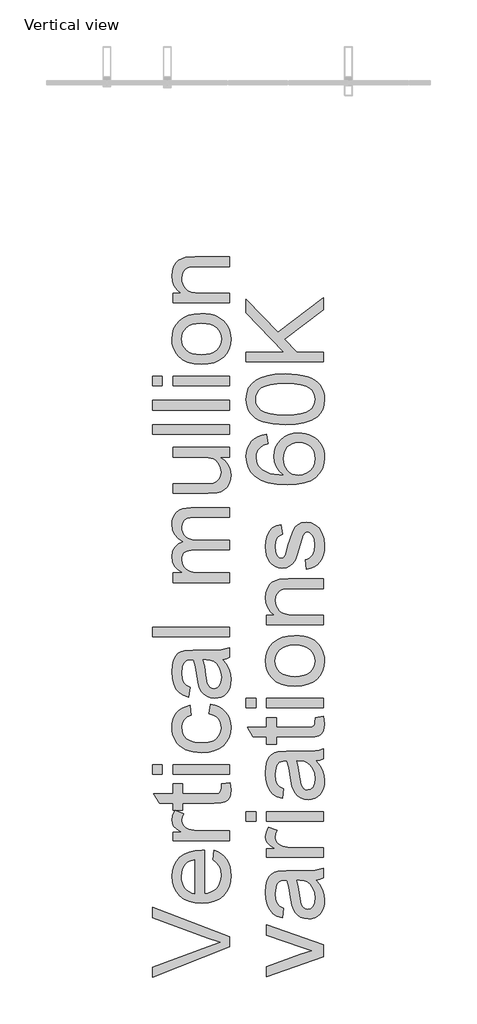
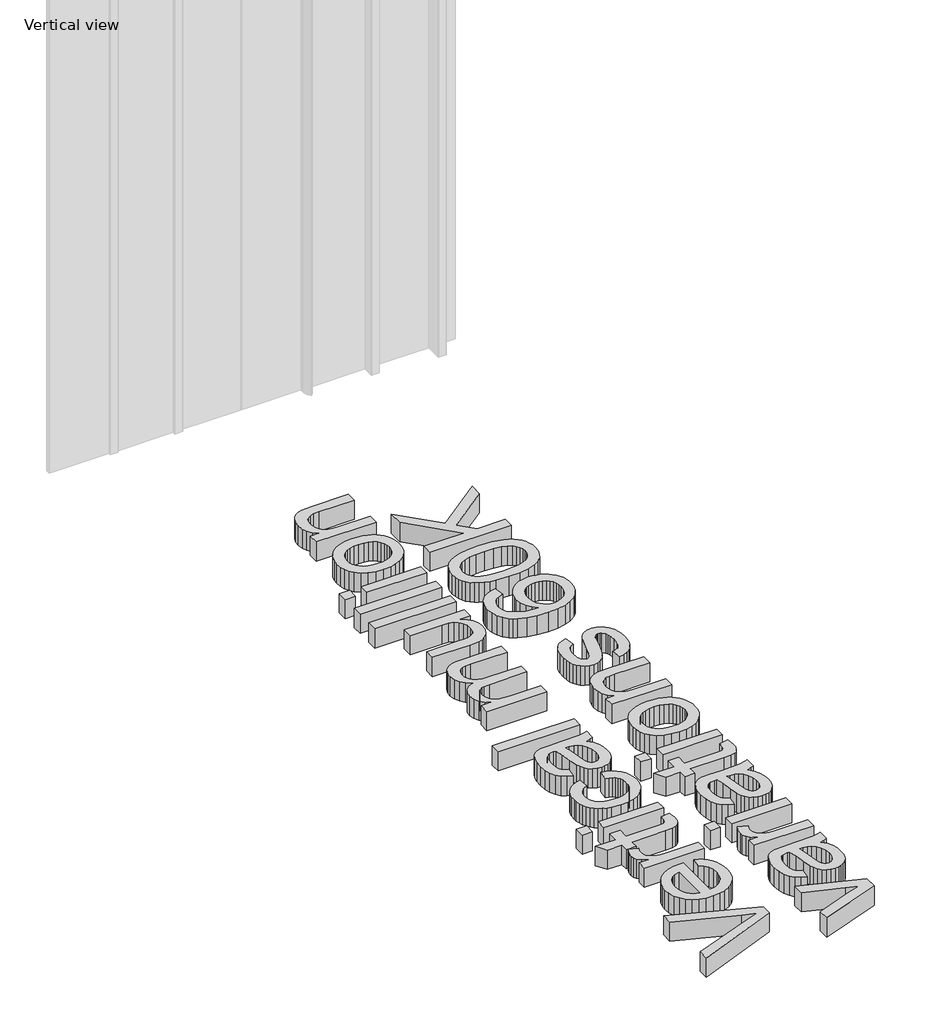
# One storey, part 4 of 8: 1 proxy.
"""IFC4 building model written with IfcOpenShell, lengths in millimetres."""

from ifc_helpers import new_model, si_unit, origin, origin_with_axes, place, context, project, spatial, polyline, outline, extrude, element, save

model = new_model("IFC4")

# Units and contexts
model_context = context("Model", 3, world=origin())
ifc_project = project(units=[si_unit("LENGTHUNIT", "METRE", prefix="MILLI")], contexts=[model_context])

# Site, building, storey
site = spatial("IfcSite", under=ifc_project)
building = spatial("IfcBuilding", under=site)
storey = spatial("IfcBuildingStorey", under=building, Name="Vertical view", Elevation=0.0)

# Proxy
placement = place(None, origin())
element("IfcBuildingElementProxy", 1, Name="600mm Arial", ObjectType="600mm Arial", at=placement, inside=storey, context=model_context, shape_type="SweptSolid", body=[
    extrude(outline(polyline([(-1935.8533623, -21361.7583093), (-2538.5912232, -21601.6173702), (-2538.5912232, -21520.9776368), (-2104.3433161, -21360.4339341), (-2006.4867053, -21327.9131658), (-2104.3433161, -21295.8338558), (-2538.5912232, -21134.8486947), (-2538.5912232, -21054.2089613), (-1935.8533623, -21283.9144791), (-1935.8533623, -21361.7583093)])), origin_with_axes(), (0.0, 0.0, 1.0), 150.0),
    extrude(outline(polyline([(-2067.7022693, -20683.6782158), (-2058.2844903, -20609.8075112), (-2028.6975808, -20621.1336781), (-2002.6239444, -20636.4237735), (-1980.063581, -20655.6777974), (-1961.0164907, -20678.8957499), (-1945.8873437, -20705.8385075), (-1935.0808101, -20736.266947), (-1928.5968899, -20770.1810684), (-1926.4355832, -20807.5808718), (-1930.1649869, -20854.3294763), (-1941.3531981, -20895.9829152), (-1960.0002167, -20932.5411885), (-1986.1060428, -20964.0042961), (-2018.9441094, -20989.3053803), (-2057.7878496, -21007.3775834), (-2102.6372633, -21018.2209052), (-2153.4923506, -21021.8353458), (-2206.0718848, -21018.184117), (-2252.4158191, -21007.2304306), (-2292.5241536, -20988.9742865), (-2326.3968884, -20963.4156849), (-2353.3074563, -20932.0353507), (-2372.5292905, -20896.314009), (-2384.0623911, -20856.2516597), (-2387.9067579, -20811.8483029), (-2384.0715881, -20768.8750874), (-2372.5660787, -20730.0129531), (-2353.3902297, -20695.2619001), (-2326.5440411, -20664.6219284), (-2292.7448828, -20639.6105513), (-2252.7101247, -20621.7452819), (-2206.4397668, -20611.0261203), (-2153.933809, -20607.4530664), (-2133.6267229, -20607.8945248), (-2133.6267229, -20946.4931132), (-2103.5615668, -20942.129113), (-2077.230413, -20933.4516964), (-2054.6332615, -20920.4608635), (-2035.7701122, -20903.1566141), (-2020.8984825, -20882.4954416), (-2010.2758899, -20859.433839), (-2003.9023343, -20833.9718064), (-2001.7778158, -20806.1093438), (-2005.7141532, -20766.0102063), (-2017.5231652, -20732.2386392), (-2037.9406159, -20704.7946423), (-2067.7022693, -20683.6782158)]), holes=[polyline([(-2208.9689555, -20946.4931132), (-2208.9689555, -20682.795299), (-2248.7737874, -20692.9856303), (-2264.4271663, -20701.7504188), (-2277.2478538, -20712.9616226), (-2292.6988976, -20733.507832), (-2303.7353574, -20756.8867328), (-2310.3572334, -20783.098325), (-2312.5645253, -20812.1426085), (-2310.8032903, -20838.6347107), (-2305.5195851, -20862.9287179), (-2296.7134099, -20885.0246303), (-2284.3847645, -20904.9224477), (-2269.1038661, -20921.6196918), (-2251.4409318, -20934.113884), (-2231.3959616, -20942.4050245), (-2208.9689555, -20946.4931132)])]), origin_with_axes(), (0.0, 0.0, 1.0), 150.0),
    extrude(outline(polyline([(-1935.8533623, -20532.1108338), (-2378.4889789, -20532.1108338), (-2378.4889789, -20466.1863802), (-2313.0059837, -20466.1863802), (-2350.9714056, -20441.8325922), (-2373.3386309, -20419.3917905), (-2384.2647262, -20396.8774124), (-2387.9067579, -20372.3028951), (-2382.0942224, -20334.7789316), (-2364.6566158, -20296.6663569), (-2297.1134815, -20321.8294853), (-2308.7017644, -20348.316989), (-2312.5645253, -20374.8044926), (-2308.8489172, -20397.3004767), (-2297.7020927, -20417.4052277), (-2279.9701806, -20433.6472178), (-2256.4993093, -20444.5549189), (-2214.413609, -20453.7151806), (-2168.501936, -20456.7686012), (-1935.8533623, -20456.7686012), (-1935.8533623, -20532.1108338)])), origin_with_axes(), (0.0, 0.0, 1.0), 150.0),
    extrude(outline(polyline([(-1998.687607, -20089.4752172), (-1933.6460703, -20080.0574381), (-1926.4355832, -20136.4169598), (-1929.5625802, -20172.5797599), (-1938.943571, -20199.5455101), (-1953.4013334, -20218.6017975), (-1971.758645, -20231.0362089), (-2003.286132, -20237.878814), (-2057.2544207, -20240.1596824), (-2303.1467463, -20240.1596824), (-2303.1467463, -20296.6663569), (-2378.4889789, -20296.6663569), (-2378.4889789, -20240.1596824), (-2486.0576743, -20240.1596824), (-2530.3506665, -20164.8174498), (-2378.4889789, -20164.8174498), (-2378.4889789, -20089.4752172), (-2303.1467463, -20089.4752172), (-2303.1467463, -20164.8174498), (-2059.4617127, -20164.8174498), (-2020.613374, -20160.8443243), (-2006.8545873, -20147.9684544), (-2003.0470087, -20137.0975415), (-2001.7778158, -20122.2902912), (-1998.687607, -20089.4752172)])), origin_with_axes(), (0.0, 0.0, 1.0), 150.0),
    extrude(outline(polyline([(-1935.8533623, -20014.1329846), (-2378.4889789, -20014.1329846), (-2378.4889789, -19938.790752), (-1935.8533623, -19938.790752), (-1935.8533623, -20014.1329846)])), origin_with_axes(), (0.0, 0.0, 1.0), 150.0),
    extrude(outline(polyline([(-2463.2489906, -20014.1329846), (-2538.5912232, -20014.1329846), (-2538.5912232, -19938.790752), (-2463.2489906, -19938.790752), (-2463.2489906, -20014.1329846)])), origin_with_axes(), (0.0, 0.0, 1.0), 150.0),
    extrude(outline(polyline([(-2095.9556066, -19543.2440307), (-2086.5378275, -19467.9017981), (-2050.9866312, -19476.0963696), (-2019.5281221, -19488.9078601), (-1992.1623002, -19506.3362696), (-1968.8891654, -19528.3815981), (-1950.3157232, -19554.1149437), (-1937.0489788, -19582.6074042), (-1929.0889321, -19613.8589797), (-1926.4355832, -19647.8696702), (-1930.1373958, -19690.1255158), (-1941.2428335, -19728.0127628), (-1959.7518964, -19761.5314111), (-1985.6645844, -19790.6814607), (-2018.493454, -19814.2764922), (-2057.7510614, -19831.1300861), (-2103.4374066, -19841.2422424), (-2155.5524898, -19844.6129612), (-2222.5989834, -19838.855608), (-2252.7699055, -19831.6589164), (-2280.7059445, -19821.5835483), (-2305.8460804, -19808.5605257), (-2327.629293, -19792.5208707), (-2346.0555825, -19773.4645833), (-2361.1249487, -19751.3916636), (-2372.8419902, -19727.2999915), (-2381.2113056, -19702.1874468), (-2386.2328949, -19676.0540295), (-2387.9067579, -19648.8997398), (-2385.6074955, -19615.473062), (-2378.7097081, -19585.2377605), (-2367.2133957, -19558.1938353), (-2351.1185584, -19534.3412865), (-2330.7930782, -19514.0847841), (-2306.604837, -19497.8289984), (-2278.5538349, -19485.5739295), (-2246.6400718, -19477.3195772), (-2237.2222927, -19552.6618098), (-2270.092549, -19566.3286259), (-2293.6553908, -19587.6105994), (-2307.8372417, -19615.3305077), (-2312.5645253, -19648.3111286), (-2310.2376717, -19673.9111169), (-2303.2571109, -19697.0003106), (-2291.6228428, -19717.5787097), (-2275.3348674, -19735.6463142), (-2254.0161058, -19750.3569955), (-2227.2894789, -19760.864625), (-2195.1549866, -19767.1692027), (-2157.612629, -19769.2707286), (-2119.5046528, -19767.2151879), (-2086.99768, -19761.048566), (-2060.0917106, -19750.7708628), (-2038.7867445, -19736.3820782), (-2022.5953382, -19718.6731587), (-2011.030048, -19698.4350504), (-2004.0908739, -19675.6677534), (-2001.7778158, -19650.3712677), (-2007.5535631, -19611.3573822), (-2014.7732473, -19594.4853942), (-2024.8808051, -19579.3700427), (-2037.9866012, -19566.434392), (-2054.2010001, -19556.1015065), (-2073.5240019, -19548.3713861), (-2095.9556066, -19543.2440307)])), origin_with_axes(), (0.0, 0.0, 1.0), 150.0),
    extrude(outline(polyline([(-1992.3600367, -19119.4439723), (-1961.4947373, -19155.4412255), (-1941.2980158, -19192.5053365), (-1930.1511913, -19231.4824339), (-1926.4355832, -19273.2186463), (-1928.6704663, -19306.7648857), (-1935.3751157, -19336.1816498), (-1946.5495313, -19361.4689384), (-1962.1937131, -19382.6267517), (-1981.3143798, -19399.3331928), (-2002.91825, -19411.266365), (-2027.0053236, -19418.4262683), (-2053.5756007, -19420.8129028), (-2084.8087821, -19417.2076592), (-2113.1724839, -19406.3919285), (-2137.4526956, -19389.7084801), (-2156.4354066, -19368.500083), (-2170.7828044, -19343.5760779), (-2181.1570767, -19315.7458049), (-2192.4878421, -19250.5571154), (-2204.4072188, -19173.5226256), (-2218.3867346, -19119.8854307), (-2235.1621535, -19119.4439723), (-2268.7865679, -19124.6311084), (-2281.2393734, -19131.1150286), (-2290.7859112, -19140.1925168), (-2300.3140549, -19155.8826839), (-2307.1198718, -19174.9941536), (-2312.5645253, -19223.4810005), (-2308.9408877, -19268.362604), (-2298.0699747, -19299.7061499), (-2277.9652237, -19321.0800939), (-2246.6400718, -19336.0528911), (-2256.0578509, -19411.3951237), (-2297.2606343, -19398.3169187), (-2329.6342499, -19378.8007789), (-2354.3927082, -19351.0256883), (-2372.7500197, -19313.170631), (-2384.1175734, -19266.8726819), (-2387.9067579, -19213.7689159), (-2384.5590318, -19162.8356536), (-2374.5158533, -19122.4606047), (-2359.4142974, -19092.0183696), (-2340.891439, -19070.8835489), (-2317.9907848, -19056.8672449), (-2289.7558416, -19047.7805596), (-2223.8313881, -19044.1017397), (-2130.0950557, -19044.1017397), (-1999.2026418, -19040.2757669), (-1966.8474204, -19034.6103842), (-1935.8533623, -19025.2661815), (-1935.8533623, -19100.6084142), (-1962.0465603, -19112.6749436), (-1992.3600367, -19119.4439723)]), holes=[polyline([(-2143.044502, -19119.4439723), (-2130.4997259, -19170.0645348), (-2119.9415127, -19240.9921835), (-2107.7278304, -19305.8129911), (-2099.3769091, -19322.6803805), (-2087.8622027, -19335.1699743), (-2074.0666279, -19342.8954962), (-2058.8731015, -19345.4706701), (-2036.469088, -19339.8604697), (-2018.1117764, -19323.0298684), (-2005.861306, -19295.3467483), (-2001.7778158, -19257.1789913), (-2006.2843702, -19216.7119718), (-2019.8040336, -19180.9538419), (-2039.7248436, -19151.9647407), (-2063.4348382, -19131.8048073), (-2087.8622027, -19122.8652749), (-2121.7073462, -19119.8854307), (-2143.044502, -19119.4439723)])]), origin_with_axes(), (0.0, 0.0, 1.0), 150.0),
    extrude(outline(polyline([(-1935.8533623, -18940.5061699), (-2538.5912232, -18940.5061699), (-2538.5912232, -18865.1639372), (-1935.8533623, -18865.1639372), (-1935.8533623, -18940.5061699)])), origin_with_axes(), (0.0, 0.0, 1.0), 150.0),
    extrude(outline(polyline([(-1935.8533623, -18516.7061114), (-2378.4889789, -18516.7061114), (-2378.4889789, -18441.3638788), (-2305.6483438, -18441.3638788), (-2339.1072113, -18418.7023479), (-2365.3188034, -18389.5660939), (-2382.2597693, -18354.9483981), (-2387.9067579, -18315.842542), (-2382.1494047, -18273.9407828), (-2374.9527132, -18256.1077031), (-2364.877345, -18240.3531566), (-2337.2310131, -18215.2636046), (-2300.3508431, -18198.8560676), (-2338.6565558, -18171.3936766), (-2366.0177792, -18140.0685247), (-2382.4345133, -18104.8806119), (-2387.9067579, -18065.8299381), (-2385.6304881, -18035.668213), (-2378.8016786, -18009.194505), (-2367.4203293, -17986.4088139), (-2351.4864404, -17967.3111398), (-2330.8160708, -17952.2141824), (-2305.2252795, -17941.4306415), (-2274.7140666, -17934.9605169), (-2239.2824319, -17932.8038087), (-1935.8533623, -17932.8038087), (-1935.8533623, -18008.1460413), (-2206.9088163, -18008.1460413), (-2244.4879621, -18009.8934808), (-2269.8166375, -18015.1357992), (-2287.1622736, -18024.9582485), (-2300.7923015, -18040.4460805), (-2309.6214694, -18060.3668905), (-2312.5645253, -18083.4882739), (-2310.6791301, -18104.8392252), (-2305.0229444, -18124.3047813), (-2295.5959683, -18141.8849421), (-2282.3982017, -18157.5797077), (-2265.0433686, -18170.4877672), (-2243.1451928, -18179.7078097), (-2216.7036744, -18185.2398352), (-2185.7188134, -18187.0838437), (-1935.8533623, -18187.0838437), (-1935.8533623, -18262.4260763), (-2215.2965258, -18262.4260763), (-2257.8972608, -18266.785478), (-2274.6174975, -18272.23473), (-2288.2843137, -18279.8636829), (-2298.9069063, -18289.9758393), (-2306.4944724, -18302.8747017), (-2311.0470121, -18318.5602703), (-2312.5645253, -18337.032545), (-2308.5178234, -18366.0584344), (-2296.3777175, -18392.8034554), (-2276.4385134, -18414.8763751), (-2248.9945166, -18429.8859605), (-2210.9187301, -18438.4943992), (-2159.0841569, -18441.3638788), (-1935.8533623, -18441.3638788), (-1935.8533623, -18516.7061114)])), origin_with_axes(), (0.0, 0.0, 1.0), 150.0),
    extrude(outline(polyline([(-1935.8533623, -17537.2570874), (-2011.9313589, -17537.2570874), (-1974.526957, -17564.5171433), (-1947.8095271, -17596.2653595), (-1931.7790692, -17632.501736), (-1926.4355832, -17673.2262729), (-1930.1879795, -17709.9225019), (-1941.4451686, -17744.0803451), (-1958.3677404, -17772.7383526), (-1979.1162849, -17792.9350741), (-2004.3162016, -17806.5283138), (-2034.5928898, -17815.3758758), (-2104.6376217, -17819.7904597), (-2378.4889789, -17819.7904597), (-2378.4889789, -17744.4482271), (-2140.101446, -17744.4482271), (-2092.4239394, -17743.3077929), (-2063.2876854, -17739.8864904), (-2037.6647044, -17728.9052128), (-2018.1853528, -17710.0880488), (-2005.8797001, -17684.685797), (-2001.7778158, -17653.9492563), (-2005.9716706, -17621.446882), (-2018.5532348, -17591.0414351), (-2038.3636802, -17565.9702772), (-2064.2441786, -17549.4707697), (-2099.6896088, -17540.310508), (-2148.1948499, -17537.2570874), (-2378.4889789, -17537.2570874), (-2378.4889789, -17461.9148548), (-1935.8533623, -17461.9148548), (-1935.8533623, -17537.2570874)])), origin_with_axes(), (0.0, 0.0, 1.0), 150.0),
    extrude(outline(polyline([(-1935.8533623, -17358.319285), (-2538.5912232, -17358.319285), (-2538.5912232, -17282.9770524), (-1935.8533623, -17282.9770524), (-1935.8533623, -17358.319285)])), origin_with_axes(), (0.0, 0.0, 1.0), 150.0),
    extrude(outline(polyline([(-1935.8533623, -17169.9637035), (-2538.5912232, -17169.9637035), (-2538.5912232, -17094.6214709), (-1935.8533623, -17094.6214709), (-1935.8533623, -17169.9637035)])), origin_with_axes(), (0.0, 0.0, 1.0), 150.0),
    extrude(outline(polyline([(-1935.8533623, -16981.6081219), (-2378.4889789, -16981.6081219), (-2378.4889789, -16906.2658893), (-1935.8533623, -16906.2658893), (-1935.8533623, -16981.6081219)])), origin_with_axes(), (0.0, 0.0, 1.0), 150.0),
    extrude(outline(polyline([(-2463.2489906, -16981.6081219), (-2538.5912232, -16981.6081219), (-2538.5912232, -16906.2658893), (-2463.2489906, -16906.2658893), (-2463.2489906, -16981.6081219)])), origin_with_axes(), (0.0, 0.0, 1.0), 150.0),
    extrude(outline(polyline([(-2157.1711706, -16812.0880986), (-2214.4963825, -16808.0138055), (-2263.8937374, -16795.7909262), (-2305.3632353, -16775.4194607), (-2338.9048762, -16746.899409), (-2360.3431995, -16718.1862193), (-2375.6562875, -16686.4931854), (-2384.8441403, -16651.8203074), (-2387.9067579, -16614.1675852), (-2384.1773542, -16572.6015182), (-2372.989143, -16535.0177739), (-2354.3421244, -16501.4163522), (-2328.2362983, -16471.797253), (-2295.5545816, -16447.6228074), (-2257.179891, -16430.3553463), (-2213.1122265, -16419.9948696), (-2163.3515881, -16416.5413773), (-2123.0225244, -16418.0680876), (-2087.2368033, -16422.6482185), (-2055.9944248, -16430.2817699), (-2029.295389, -16440.9687418), (-2006.2337865, -16454.5757771), (-1985.9037077, -16470.9695185), (-1968.3051528, -16490.1499661), (-1953.4381216, -16512.1171197), (-1941.6245111, -16536.0156538), (-1933.1862178, -16560.9902427), (-1928.1232418, -16587.0408865), (-1926.4355832, -16614.1675852), (-1930.1511913, -16656.3406574), (-1941.2980158, -16694.2738896), (-1959.8760566, -16727.9672818), (-1985.8853136, -16757.4208341), (-2018.8843286, -16781.3377623), (-2058.4316431, -16798.4212824), (-2104.5272571, -16808.6713945), (-2157.1711706, -16812.0880986)]), holes=[polyline([(-2157.3183234, -16736.7458659), (-2120.7738457, -16734.5661651), (-2089.1313956, -16728.0270627), (-2062.390973, -16717.1285586), (-2040.5525781, -16701.8706528), (-2023.5886196, -16683.3110061), (-2011.4715064, -16662.5072793), (-2004.2012385, -16639.4594723), (-2001.7778158, -16614.1675852), (-2004.215034, -16589.0044567), (-2011.5266887, -16566.0486202), (-2023.7127798, -16545.3000757), (-2040.7733073, -16526.7588231), (-2062.8278329, -16511.5009173), (-2089.9959183, -16500.6024132), (-2122.2775633, -16494.0633108), (-2159.6727681, -16491.88361), (-2195.0584175, -16494.0771064), (-2225.8731332, -16500.6575955), (-2252.116915, -16511.6250775), (-2273.789763, -16526.9795523), (-2290.7537215, -16545.5897827), (-2302.8708348, -16566.3245317), (-2310.1411027, -16589.1837992), (-2312.5645253, -16614.1675852), (-2310.1502997, -16639.4594723), (-2302.907623, -16662.5072793), (-2290.836495, -16683.3110061), (-2273.9369158, -16701.8706528), (-2252.1629002, -16717.1285586), (-2225.468463, -16728.0270627), (-2193.853604, -16734.5661651), (-2157.3183234, -16736.7458659)])]), origin_with_axes(), (0.0, 0.0, 1.0), 150.0),
    extrude(outline(polyline([(-1935.8533623, -16331.7813657), (-2378.4889789, -16331.7813657), (-2378.4889789, -16256.439133), (-2316.6848037, -16256.439133), (-2347.8444087, -16230.2643291), (-2370.1012694, -16198.8288126), (-2383.4553858, -16162.1325836), (-2387.9067579, -16120.175642), (-2384.3199085, -16083.0379546), (-2373.5593601, -16049.0272642), (-2356.9678822, -16020.6635623), (-2335.8882438, -16000.4668408), (-2310.3756275, -15986.7632365), (-2280.4852154, -15977.8788863), (-2207.6445803, -15973.9057607), (-1935.8533623, -15973.9057607), (-1935.8533623, -16049.2479934), (-2197.4910372, -16049.2479934), (-2236.4497405, -16051.4184971), (-2264.1512548, -16057.9300084), (-2283.9984884, -16069.9413556), (-2299.3943499, -16088.6113668), (-2309.2719815, -16112.5420906), (-2312.5645253, -16140.3355754), (-2310.7159183, -16163.2132369), (-2305.1700972, -16184.4630207), (-2295.9270621, -16204.0849266), (-2282.9868129, -16222.0789547), (-2264.8778217, -16237.1115327), (-2240.1285605, -16247.8490885), (-2208.7390292, -16254.2916219), (-2170.709228, -16256.439133), (-1935.8533623, -16256.439133), (-1935.8533623, -16331.7813657)])), origin_with_axes(), (0.0, 0.0, 1.0), 150.0),
    extrude(outline(polyline([(-1204.0044552, -21440.6322091), (-1646.6400718, -21596.3198694), (-1646.6400718, -21516.5630529), (-1381.4707297, -21422.2381093), (-1292.296134, -21393.8376193), (-1376.4675345, -21366.0257405), (-1646.6400718, -21271.1121857), (-1646.6400718, -21191.3553691), (-1204.0044552, -21345.1300431), (-1204.0044552, -21440.6322091)])), origin_with_axes(), (0.0, 0.0, 1.0), 150.0),
    extrude(outline(polyline([(-1260.5111297, -20842.8975433), (-1229.6458303, -20878.8947965), (-1209.4491087, -20915.9589076), (-1198.3022843, -20954.9360049), (-1194.5866761, -20996.6722173), (-1196.8215592, -21030.2184567), (-1203.5262086, -21059.6352208), (-1214.7006242, -21084.9225094), (-1230.3448061, -21106.0803227), (-1249.4654728, -21122.7867638), (-1271.0693429, -21134.719936), (-1295.1564166, -21141.8798393), (-1321.7266937, -21144.2664738), (-1352.959875, -21140.6612302), (-1381.3235769, -21129.8454995), (-1405.6037886, -21113.1620511), (-1424.5864995, -21091.953654), (-1438.9338973, -21067.0296489), (-1449.3081696, -21039.1993759), (-1460.638935, -20974.0106864), (-1472.5583117, -20896.9761966), (-1486.5378275, -20843.3390017), (-1503.3132465, -20842.8975433), (-1536.9376608, -20848.0846794), (-1549.3904664, -20854.5685996), (-1558.9370041, -20863.6460878), (-1568.4651478, -20879.3362549), (-1575.2709647, -20898.4477246), (-1580.7156183, -20946.9345715), (-1577.0919806, -20991.816175), (-1566.2210677, -21023.1597209), (-1546.1163166, -21044.5336649), (-1514.7911647, -21059.5064621), (-1524.2089438, -21134.8486947), (-1565.4117273, -21121.7704898), (-1597.7853428, -21102.2543499), (-1622.5438011, -21074.4792593), (-1640.9011127, -21036.624202), (-1652.2686663, -20990.3262529), (-1656.0578509, -20937.2224869), (-1652.7101247, -20886.2892246), (-1642.6669462, -20845.9141757), (-1627.5653903, -20815.4719406), (-1609.0425319, -20794.3371199), (-1586.1418777, -20780.3208159), (-1557.9069346, -20771.2341306), (-1491.982481, -20767.5553107), (-1398.2461487, -20767.5553107), (-1267.3537348, -20763.7293379), (-1234.9985133, -20758.0639552), (-1204.0044552, -20748.7197525), (-1204.0044552, -20824.0619852), (-1230.1976533, -20836.1285146), (-1260.5111297, -20842.8975433)]), holes=[polyline([(-1411.1955949, -20842.8975433), (-1398.6508188, -20893.5181058), (-1388.0926056, -20964.4457545), (-1375.8789233, -21029.2665621), (-1367.5280021, -21046.1339515), (-1356.0132956, -21058.6235453), (-1342.2177208, -21066.3490672), (-1327.0241944, -21068.9242411), (-1304.6201809, -21063.3140407), (-1286.2628693, -21046.4834394), (-1274.0123989, -21018.8003193), (-1269.9289087, -20980.6325623), (-1274.4354632, -20940.1655428), (-1287.9551265, -20904.4074129), (-1307.8759365, -20875.4183117), (-1331.5859311, -20855.2583783), (-1356.0132956, -20846.3188459), (-1389.8584392, -20843.3390017), (-1411.1955949, -20842.8975433)])]), origin_with_axes(), (0.0, 0.0, 1.0), 150.0),
    extrude(outline(polyline([(-1204.0044552, -20663.9597409), (-1646.6400718, -20663.9597409), (-1646.6400718, -20598.0352873), (-1581.1570767, -20598.0352873), (-1619.1224986, -20573.6814992), (-1641.4897239, -20551.2406975), (-1652.4158191, -20528.7263194), (-1656.0578509, -20504.1518022), (-1650.2453153, -20466.6278386), (-1632.8077088, -20428.5152639), (-1565.2645745, -20453.6783924), (-1576.8528573, -20480.1658961), (-1580.7156183, -20506.6533997), (-1577.0000101, -20529.1493837), (-1565.8531857, -20549.2541348), (-1548.1212735, -20565.4961248), (-1524.6504022, -20576.403826), (-1482.5647019, -20585.5640877), (-1436.6530289, -20588.6175082), (-1204.0044552, -20588.6175082), (-1204.0044552, -20663.9597409)])), origin_with_axes(), (0.0, 0.0, 1.0), 150.0),
    extrude(outline(polyline([(-1204.0044552, -20381.4263686), (-1646.6400718, -20381.4263686), (-1646.6400718, -20306.0841359), (-1204.0044552, -20306.0841359), (-1204.0044552, -20381.4263686)])), origin_with_axes(), (0.0, 0.0, 1.0), 150.0),
    extrude(outline(polyline([(-1731.4000835, -20381.4263686), (-1806.7423161, -20381.4263686), (-1806.7423161, -20306.0841359), (-1731.4000835, -20306.0841359), (-1731.4000835, -20381.4263686)])), origin_with_axes(), (0.0, 0.0, 1.0), 150.0),
    extrude(outline(polyline([(-1260.5111297, -19910.5374147), (-1229.6458303, -19946.534668), (-1209.4491087, -19983.598779), (-1198.3022843, -20022.5758764), (-1194.5866761, -20064.3120887), (-1196.8215592, -20097.8583282), (-1203.5262086, -20127.2750922), (-1214.7006242, -20152.5623808), (-1230.3448061, -20173.7201941), (-1249.4654728, -20190.4266352), (-1271.0693429, -20202.3598074), (-1295.1564166, -20209.5197107), (-1321.7266937, -20211.9063452), (-1352.959875, -20208.3011016), (-1381.3235769, -20197.485371), (-1405.6037886, -20180.8019225), (-1424.5864995, -20159.5935255), (-1438.9338973, -20134.6695203), (-1449.3081696, -20106.8392474), (-1460.638935, -20041.6505578), (-1472.5583117, -19964.616068), (-1486.5378275, -19910.9788731), (-1503.3132465, -19910.5374147), (-1536.9376608, -19915.7245509), (-1549.3904664, -19922.208471), (-1558.9370041, -19931.2859593), (-1568.4651478, -19946.9761264), (-1575.2709647, -19966.087596), (-1580.7156183, -20014.574443), (-1577.0919806, -20059.4560464), (-1566.2210677, -20090.7995924), (-1546.1163166, -20112.1735363), (-1514.7911647, -20127.1463335), (-1524.2089438, -20202.4885661), (-1565.4117273, -20189.4103612), (-1597.7853428, -20169.8942213), (-1622.5438011, -20142.1191307), (-1640.9011127, -20104.2640734), (-1652.2686663, -20057.9661243), (-1656.0578509, -20004.8623583), (-1652.7101247, -19953.9290961), (-1642.6669462, -19913.5540471), (-1627.5653903, -19883.111812), (-1609.0425319, -19861.9769914), (-1586.1418777, -19847.9606874), (-1557.9069346, -19838.8740021), (-1491.982481, -19835.1951821), (-1398.2461487, -19835.1951821), (-1267.3537348, -19831.3692094), (-1234.9985133, -19825.7038266), (-1204.0044552, -19816.359624), (-1204.0044552, -19891.7018566), (-1230.1976533, -19903.768386), (-1260.5111297, -19910.5374147)]), holes=[polyline([(-1411.1955949, -19910.5374147), (-1398.6508188, -19961.1579773), (-1388.0926056, -20032.0856259), (-1375.8789233, -20096.9064335), (-1367.5280021, -20113.773823), (-1356.0132956, -20126.2634167), (-1342.2177208, -20133.9889386), (-1327.0241944, -20136.5641126), (-1304.6201809, -20130.9539121), (-1286.2628693, -20114.1233109), (-1274.0123989, -20086.4401907), (-1269.9289087, -20048.2724337), (-1274.4354632, -20007.8054143), (-1287.9551265, -19972.0472843), (-1307.8759365, -19943.0581831), (-1331.5859311, -19922.8982498), (-1356.0132956, -19913.9587173), (-1389.8584392, -19910.9788731), (-1411.1955949, -19910.5374147)])]), origin_with_axes(), (0.0, 0.0, 1.0), 150.0),
    extrude(outline(polyline([(-1266.8387, -19571.497368), (-1201.7971632, -19562.0795889), (-1194.5866761, -19618.4391106), (-1197.7136731, -19654.6019107), (-1207.094664, -19681.5676609), (-1221.5524264, -19700.6239483), (-1239.9097379, -19713.0583597), (-1271.4372249, -19719.9009648), (-1325.4055136, -19722.1818332), (-1571.2978392, -19722.1818332), (-1571.2978392, -19778.6885077), (-1646.6400718, -19778.6885077), (-1646.6400718, -19722.1818332), (-1754.2087672, -19722.1818332), (-1798.5017594, -19646.8396006), (-1646.6400718, -19646.8396006), (-1646.6400718, -19571.497368), (-1571.2978392, -19571.497368), (-1571.2978392, -19646.8396006), (-1327.6128056, -19646.8396006), (-1288.7644669, -19642.866475), (-1275.0056803, -19629.9906052), (-1271.1981016, -19619.1196923), (-1269.9289087, -19604.3124419), (-1266.8387, -19571.497368)])), origin_with_axes(), (0.0, 0.0, 1.0), 150.0),
    extrude(outline(polyline([(-1204.0044552, -19496.1551354), (-1646.6400718, -19496.1551354), (-1646.6400718, -19420.8129028), (-1204.0044552, -19420.8129028), (-1204.0044552, -19496.1551354)])), origin_with_axes(), (0.0, 0.0, 1.0), 150.0),
    extrude(outline(polyline([(-1731.4000835, -19496.1551354), (-1806.7423161, -19496.1551354), (-1806.7423161, -19420.8129028), (-1731.4000835, -19420.8129028), (-1731.4000835, -19496.1551354)])), origin_with_axes(), (0.0, 0.0, 1.0), 150.0),
    extrude(outline(polyline([(-1425.3222635, -19326.635112), (-1482.6474754, -19322.5608189), (-1532.0448303, -19310.3379396), (-1573.5143282, -19289.9664741), (-1607.0559691, -19261.4464224), (-1628.4942924, -19232.7332327), (-1643.8073804, -19201.0401988), (-1652.9952333, -19166.3673208), (-1656.0578509, -19128.7145986), (-1652.3284471, -19087.1485317), (-1641.140236, -19049.5647873), (-1622.4932173, -19015.9633656), (-1596.3873913, -18986.3442665), (-1563.7056745, -18962.1698208), (-1525.3309839, -18944.9023597), (-1481.2633194, -18934.541883), (-1431.502681, -18931.0883908), (-1391.1736173, -18932.6151011), (-1355.3878962, -18937.1952319), (-1324.1455178, -18944.8287833), (-1297.446482, -18955.5157553), (-1274.3848794, -18969.1227906), (-1254.0548006, -18985.516532), (-1236.4562457, -19004.6969795), (-1221.5892146, -19026.6641331), (-1209.775604, -19050.5626672), (-1201.3373107, -19075.5372562), (-1196.2743348, -19101.5879), (-1194.5866761, -19128.7145986), (-1198.3022843, -19170.8876708), (-1209.4491087, -19208.820903), (-1228.0271495, -19242.5142953), (-1254.0364065, -19271.9678475), (-1287.0354215, -19295.8847757), (-1326.582736, -19312.9682959), (-1372.67835, -19323.218408), (-1425.3222635, -19326.635112)]), holes=[polyline([(-1425.4694163, -19251.2928794), (-1388.9249386, -19249.1131786), (-1357.2824885, -19242.5740761), (-1330.542066, -19231.675572), (-1308.703671, -19216.4176662), (-1291.7397125, -19197.8580196), (-1279.6225993, -19177.0542928), (-1272.3523314, -19154.0064858), (-1269.9289087, -19128.7145986), (-1272.366127, -19103.5514701), (-1279.6777816, -19080.5956336), (-1291.8638727, -19059.8470891), (-1308.9244002, -19041.3058365), (-1330.9789258, -19026.0479308), (-1358.1470112, -19015.1494267), (-1390.4286563, -19008.6103242), (-1427.8238611, -19006.4306234), (-1463.2095105, -19008.6241198), (-1494.0242261, -19015.204609), (-1520.2680079, -19026.172091), (-1541.940856, -19041.5265657), (-1558.9048145, -19060.1367962), (-1571.0219277, -19080.8715451), (-1578.2921956, -19103.7308126), (-1580.7156183, -19128.7145986), (-1578.3013927, -19154.0064858), (-1571.0587159, -19177.0542928), (-1558.9875879, -19197.8580196), (-1542.0880088, -19216.4176662), (-1520.3139932, -19231.675572), (-1493.6195559, -19242.5740761), (-1462.0046969, -19249.1131786), (-1425.4694163, -19251.2928794)])]), origin_with_axes(), (0.0, 0.0, 1.0), 150.0),
    extrude(outline(polyline([(-1204.0044552, -18846.3283791), (-1646.6400718, -18846.3283791), (-1646.6400718, -18770.9861465), (-1584.8358966, -18770.9861465), (-1615.9955016, -18744.8113425), (-1638.2523623, -18713.375826), (-1651.6064787, -18676.679597), (-1656.0578509, -18634.7226555), (-1652.4710014, -18597.584968), (-1641.7104531, -18563.5742776), (-1625.1189751, -18535.2105758), (-1604.0393368, -18515.0138542), (-1578.5267204, -18501.3102499), (-1548.6363083, -18492.4258997), (-1475.7956732, -18488.4527742), (-1204.0044552, -18488.4527742), (-1204.0044552, -18563.7950068), (-1465.6421302, -18563.7950068), (-1504.6008335, -18565.9655106), (-1532.3023477, -18572.4770219), (-1552.1495813, -18584.488369), (-1567.5454428, -18603.1583803), (-1577.4230744, -18627.0891041), (-1580.7156183, -18654.8825888), (-1578.8670112, -18677.7602504), (-1573.3211902, -18699.0100341), (-1564.078155, -18718.63194), (-1551.1379058, -18736.6259681), (-1533.0289146, -18751.6585462), (-1508.2796534, -18762.3961019), (-1476.8901222, -18768.8386353), (-1438.8603209, -18770.9861465), (-1204.0044552, -18770.9861465), (-1204.0044552, -18846.3283791)])), origin_with_axes(), (0.0, 0.0, 1.0), 150.0),
    extrude(outline(polyline([(-1335.8533623, -18413.1105416), (-1345.2711413, -18337.768309), (-1328.0910522, -18333.2157693), (-1313.0446786, -18325.8857205), (-1300.1320205, -18315.7781627), (-1289.3530781, -18302.8930958), (-1280.855004, -18287.1937317), (-1274.7849511, -18268.6432821), (-1269.9289087, -18222.9891265), (-1274.3802809, -18177.8867939), (-1279.9444961, -18160.3572168), (-1287.7343973, -18146.1753659), (-1307.0849902, -18127.4133841), (-1317.919115, -18122.7228887), (-1329.525792, -18121.1593902), (-1339.6977291, -18122.7320857), (-1348.7292321, -18127.4501723), (-1363.3709355, -18146.3225187), (-1372.9358674, -18174.5390677), (-1384.855244, -18223.8720432), (-1404.7392659, -18292.6291881), (-1421.7170199, -18337.3268506), (-1440.2398784, -18366.0400403), (-1464.7592134, -18386.8437671), (-1493.7115264, -18399.4805136), (-1525.533319, -18403.6927625), (-1554.7247553, -18400.3082481), (-1581.6721114, -18390.1547051), (-1605.3085296, -18374.1518383), (-1624.5671521, -18353.2193528), (-1636.6888638, -18332.4156259), (-1646.860801, -18305.321117), (-1653.7585884, -18273.9959651), (-1656.0578509, -18240.5003094), (-1652.3606368, -18191.4616395), (-1641.2689947, -18148.8241162), (-1623.8681763, -18114.5375143), (-1601.2434336, -18090.5516082), (-1571.7209035, -18074.659106), (-1533.6267229, -18064.6527157), (-1524.2089438, -18139.9949483), (-1547.9189384, -18149.5046979), (-1565.7796093, -18168.321862), (-1576.981616, -18196.6303815), (-1580.7156183, -18234.6141975), (-1577.1471629, -18277.8771201), (-1566.4417968, -18306.7190686), (-1550.9907531, -18322.9426645), (-1533.1852645, -18328.3505299), (-1521.5969816, -18326.1064497), (-1511.2594976, -18319.3742092), (-1502.0256595, -18307.8595027), (-1494.6312314, -18291.2680248), (-1478.5915764, -18226.3736408), (-1443.1277521, -18115.7883131), (-1426.1683921, -18086.5784826), (-1402.9550382, -18064.4319865), (-1373.414114, -18050.4708648), (-1337.4720431, -18045.8171576), (-1300.3159615, -18051.2802052), (-1265.367172, -18067.6693481), (-1235.3663953, -18094.3591868), (-1213.0543523, -18130.7243221), (-1199.2035952, -18174.6494323), (-1194.5866761, -18224.019196), (-1196.8123622, -18264.568989), (-1203.4894204, -18299.986828), (-1214.6178508, -18330.2727133), (-1230.1976533, -18355.4266447), (-1250.1552515, -18375.9728542), (-1274.4170691, -18392.4355734), (-1302.983106, -18404.8148026), (-1335.8533623, -18413.1105416)])), origin_with_axes(), (0.0, 0.0, 1.0), 150.0),
    extrude(outline(polyline([(-1646.6400718, -17358.319285), (-1637.2222927, -17433.6615176), (-1674.5623152, -17445.8016234), (-1700.0565375, -17462.2091604), (-1713.7693389, -17478.4051653), (-1723.564197, -17496.3853978), (-1729.4411119, -17516.149858), (-1731.4000835, -17537.6985458), (-1726.8383467, -17572.7209118), (-1713.1531365, -17605.6831386), (-1684.3295822, -17633.9916581), (-1644.653509, -17657.1130415), (-1619.3478263, -17666.149143), (-1588.5331107, -17672.7296322), (-1510.3765808, -17678.5237736), (-1545.63807, -17648.3022677), (-1570.4884988, -17612.0842853), (-1585.2221727, -17571.8931773), (-1590.1333973, -17529.7522947), (-1586.7764741, -17493.5527064), (-1576.7057045, -17460.1490213), (-1559.9210885, -17429.5412393), (-1536.422626, -17401.7293604), (-1507.6082688, -17378.6171741), (-1474.8759682, -17362.1084695), (-1438.2257245, -17352.2032468), (-1397.6575375, -17348.9015059), (-1370.190548, -17350.4558073), (-1343.7076429, -17355.1187116), (-1318.2088221, -17362.8902188), (-1293.6940856, -17373.7703288), (-1271.07854, -17387.3727656), (-1251.2772916, -17403.311253), (-1234.2903405, -17421.5857911), (-1220.1176866, -17442.1963799), (-1208.9478695, -17464.701561), (-1200.9694287, -17488.6598759), (-1196.1823643, -17514.0713247), (-1194.5866761, -17540.9359074), (-1198.8173191, -17585.8497005), (-1211.5092479, -17626.413289), (-1232.6624626, -17662.6266729), (-1262.2769632, -17694.4898522), (-1301.6035485, -17720.4669196), (-1351.8930173, -17739.0219677), (-1413.1453695, -17750.1549966), (-1485.3606051, -17753.8660062), (-1566.3222352, -17749.7457279), (-1635.4196709, -17737.3848928), (-1692.6529123, -17716.7835011), (-1716.8204602, -17703.3925965), (-1738.0219594, -17687.9415527), (-1768.0871155, -17656.6807801), (-1789.5622269, -17620.4352066), (-1802.4472938, -17579.2048319), (-1806.7423161, -17532.9896563), (-1804.0843687, -17498.2891871), (-1796.1105264, -17466.8812618), (-1782.8207894, -17438.7658803), (-1764.2151575, -17413.9430427), (-1740.9190301, -17393.0841335), (-1713.5578067, -17376.8605376), (-1682.1314873, -17365.2722547), (-1646.6400718, -17358.319285)]), holes=[polyline([(-1398.8347598, -17678.5237736), (-1365.4494688, -17674.164372), (-1333.5724939, -17661.086167), (-1306.1652853, -17640.7790809), (-1286.1892929, -17614.7330356), (-1273.9940048, -17583.2975191), (-1269.9289087, -17546.8220193), (-1272.0350332, -17520.6334198), (-1278.3534064, -17497.1027677), (-1288.8840285, -17476.230063), (-1303.6268995, -17458.0153057), (-1321.9842111, -17443.2402451), (-1343.358155, -17432.6866303), (-1367.7487313, -17426.3544615), (-1395.1559399, -17424.2437385), (-1421.4916922, -17426.3268703), (-1444.8751915, -17432.5762657), (-1465.3064378, -17442.9919247), (-1482.7854311, -17457.5738473), (-1496.7879396, -17475.8437869), (-1506.7897313, -17497.3234969), (-1512.7908064, -17522.0129773), (-1514.7911647, -17549.9122281), (-1512.7908064, -17575.7513397), (-1506.7897313, -17599.5579033), (-1496.7879396, -17621.3319189), (-1482.7854311, -17641.0733865), (-1465.5363641, -17657.4579308), (-1445.7948965, -17669.1611768), (-1423.5610284, -17676.1831244), (-1398.8347598, -17678.5237736)])]), origin_with_axes(), (0.0, 0.0, 1.0), 150.0),
    extrude(outline(polyline([(-1500.5173433, -17282.9770524), (-1596.9943965, -17277.4404284), (-1637.9074729, -17270.5196483), (-1673.9369158, -17260.8305563), (-1705.3770309, -17248.4145389), (-1732.5221236, -17233.312983), (-1755.372194, -17215.5258886), (-1773.9272421, -17195.0532555), (-1788.283837, -17171.8261061), (-1798.5385476, -17145.7754623), (-1804.691374, -17116.9013242), (-1806.7423161, -17085.2036918), (-1801.8862738, -17038.776984), (-1787.3181468, -16997.2063185), (-1763.6081522, -16962.44147), (-1731.3265071, -16936.4322129), (-1690.749123, -16916.7873144), (-1642.1519115, -16901.1155414), (-1580.4397068, -16890.8516337), (-1500.5173433, -16887.4303312), (-1404.5921131, -16892.9117729), (-1363.8169924, -16899.7635751), (-1327.8335348, -16909.3560981), (-1296.3796242, -16921.6755464), (-1269.1931447, -16936.7081244), (-1246.2740964, -16954.4538322), (-1227.6224793, -16974.9126696), (-1213.1693154, -16998.1674102), (-1202.8456269, -17024.3008275), (-1196.6514138, -17053.3129213), (-1194.5866761, -17085.2036918), (-1198.1735256, -17126.7007808), (-1208.9340739, -17163.4889803), (-1226.8683212, -17195.5682903), (-1251.9762674, -17222.9387108), (-1297.3637085, -17249.2054852), (-1353.9163682, -17267.967467), (-1421.6342465, -17279.224656), (-1500.5173433, -17282.9770524)]), holes=[polyline([(-1500.6644961, -17207.6348198), (-1435.1677054, -17205.4275278), (-1382.1513114, -17198.8056519), (-1341.615314, -17187.769192), (-1313.5597134, -17172.3181482), (-1294.4712363, -17153.6297429), (-1280.8366099, -17132.8811984), (-1272.655834, -17110.0725146), (-1269.9289087, -17085.2036918), (-1272.6650311, -17060.3348689), (-1280.8733981, -17037.5261852), (-1294.5540098, -17016.7776407), (-1313.7068662, -16998.0892353), (-1341.8084521, -16982.6381915), (-1382.3352524, -16971.6017317), (-1435.287267, -16964.9798558), (-1500.6644961, -16962.7725638), (-1564.4276429, -16964.9062794), (-1616.5105364, -16971.3074261), (-1656.9131765, -16981.9760039), (-1685.6355633, -16996.9120129), (-1705.6575409, -17015.2877186), (-1719.9589534, -17036.2753864), (-1728.539801, -17059.8750164), (-1731.4000835, -17086.0866086), (-1728.8800918, -17110.8266727), (-1721.3201168, -17133.2490803), (-1708.7201585, -17153.3538314), (-1691.0802168, -17171.1409258), (-1659.8102472, -17187.1070044), (-1617.6509706, -17198.5113463), (-1564.6023869, -17205.3539514), (-1500.6644961, -17207.6348198)])]), origin_with_axes(), (0.0, 0.0, 1.0), 150.0),
    extrude(outline(polyline([(-1204.0044552, -16793.2525404), (-1806.7423161, -16793.2525404), (-1806.7423161, -16717.9103078), (-1511.700956, -16717.9103078), (-1806.7423161, -16408.8894318), (-1806.7423161, -16303.5280284), (-1558.9370041, -16562.9584114), (-1204.0044552, -16294.1102493), (-1204.0044552, -16386.2279009), (-1508.022136, -16616.3748771), (-1411.1955949, -16717.9103078), (-1204.0044552, -16717.9103078), (-1204.0044552, -16793.2525404)])), origin_with_axes(), (0.0, 0.0, 1.0), 150.0),
])

save(model, "model.ifc")
